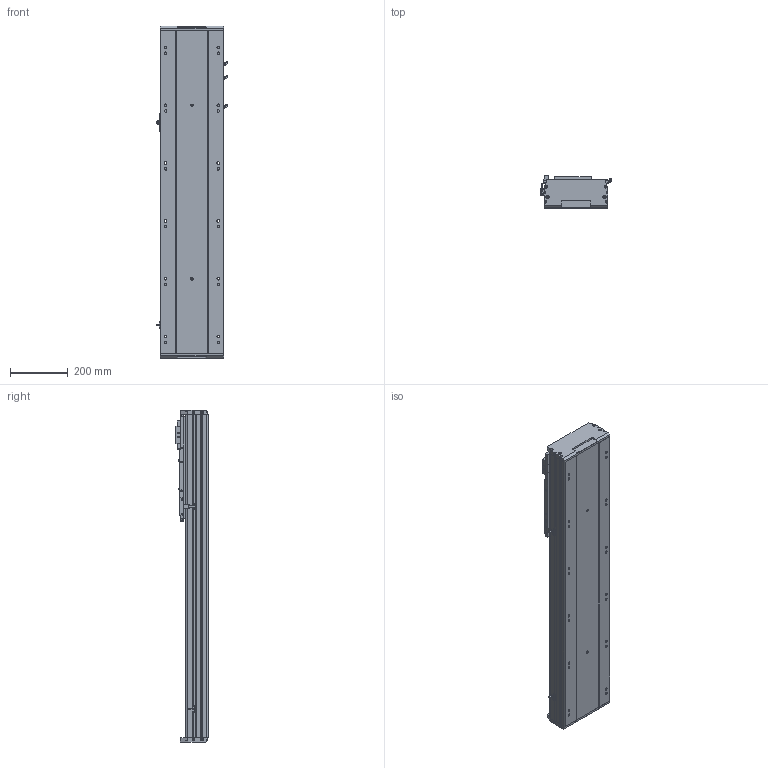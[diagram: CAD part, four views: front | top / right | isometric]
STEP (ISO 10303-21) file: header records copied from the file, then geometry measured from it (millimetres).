
FILE_DESCRIPTION (( 'STEP AP203' ), '1' );
FILE_NAME ('BEH22-A-M2-700-L1-¦Õ22-PCD100-M6-C3.STEP', '2022-06-21T03:49:56', ( 'CXY' ), ( 'BT' ), 'SwSTEP 2.0', 'SolidWorks 2016', '' );
FILE_SCHEMA (( 'CONFIG_CONTROL_DESIGN' ));
Products named in the file (12): BEH22-07-PCD100-80-M6; BEH22-A-M2-700-L1-耳22-PCD100-M6-C3; BTH22-07-DZ; BEH22-04-01_L; FS-25-6.66-M2-H22K6; 萇儂階踡輸; FS-01-10（10毫米）; BEH22-B-01-XX-2; PM-T65; FS-02-BTH22; _G-M6; BEH22-04-F
Assembly tree (18 placements, depth 3):
  BEH22-A-M2-700-L1-耳22-PCD100-M6-C3
    BEH22-B-01-XX-2
    BTH22-07-DZ  x2
    PM-T65  x2
    BEH22-04-01_L
      BEH22-04-F
      萇儂階踡輸
      _G-M6  x3
      FS-02-BTH22
      FS-01-10（10毫米）  x4
      BEH22-07-PCD100-80-M6
      FS-25-6.66-M2-H22K6
Bounding box: 247.7 x 111 x 1148 mm (x, y, z)
Volume: 13225073.4 mm3; surface area: 1407883.7 mm2
Topology: 21 solids, 21 shells, 1788 faces, 4912 edges, 3154 vertices
Faces by surface type: cylinder 768, plane 728, cone 233, bspline 37, torus 22
Entity records: 440632 total; most frequent: CARTESIAN_POINT 404047, ORIENTED_EDGE 7644, DIRECTION 7058, EDGE_CURVE 3822, AXIS2_PLACEMENT_3D 2592, VERTEX_POINT 2514, VECTOR 1874, LINE 1874
